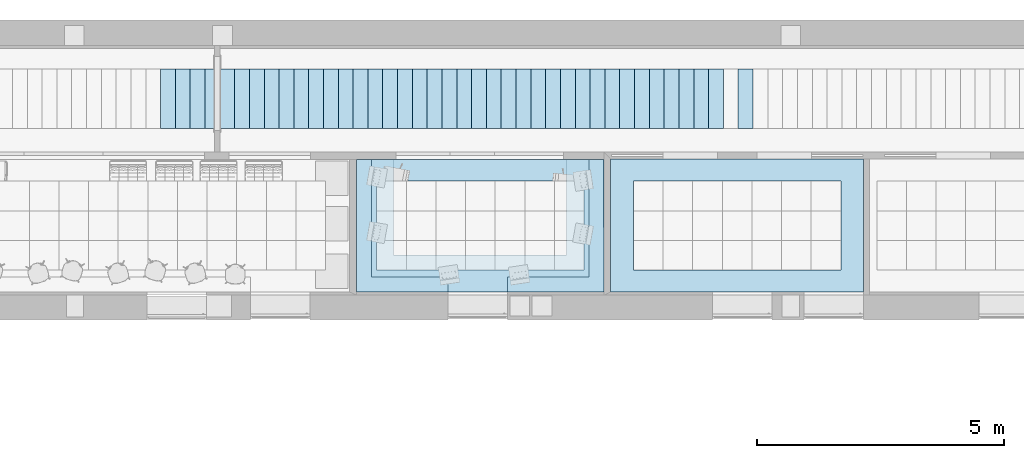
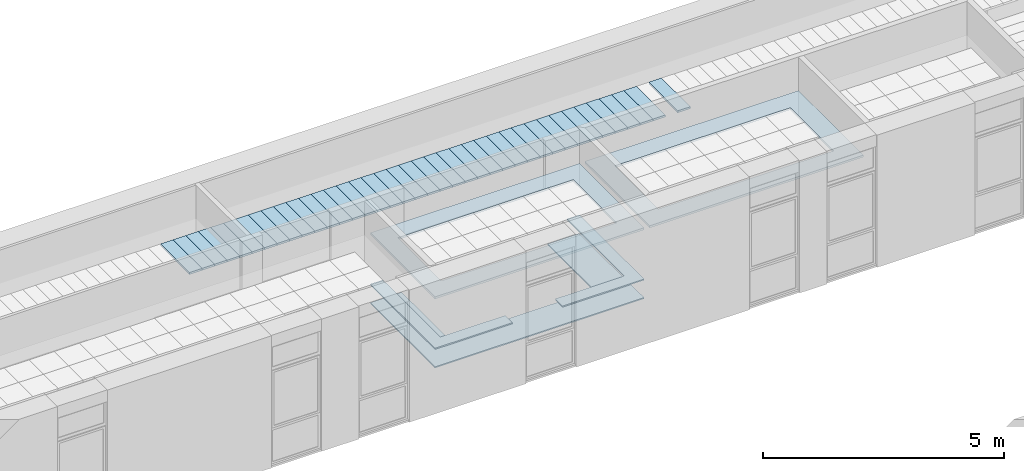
# One storey, part 10 of 68: 44 slabs.
"""IFC2X3 building model written with IfcOpenShell, lengths in millimetres."""

from ifc_helpers import new_model, entity, si_unit, converted_unit, derived_unit, money_unit, direction, frame, origin_with_axes, place, context, subcontext, project, spatial, polyline, outline, extrude, material, layer, layer_set, layer_usage, type_object, element, save


model = new_model("IFC2X3")

# Units and contexts
model_context = context("Model", 3, precision=0.01, world=origin_with_axes(), true_north=direction((0.0, 1.0)))
body_context = subcontext(model_context, "Body", "Model", "MODEL_VIEW")
ifc_project = project(units=[si_unit("LENGTHUNIT", "METRE", prefix="MILLI"), si_unit("AREAUNIT", "SQUARE_METRE"), si_unit("VOLUMEUNIT", "CUBIC_METRE"), converted_unit("PLANEANGLEUNIT", "DEGREE", entity("IfcPlaneAngleMeasure", 0.0174532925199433), si_unit("PLANEANGLEUNIT", "RADIAN"), dimensions=[0, 0, 0, 0, 0, 0, 0]), money_unit("USD"), converted_unit("TIMEUNIT", "Year", entity("IfcTimeMeasure", 31557600.0), si_unit("TIMEUNIT", "SECOND"), dimensions=[0, 0, 1, 0, 0, 0, 0]), si_unit("MASSUNIT", "GRAM", prefix="KILO"), si_unit("THERMODYNAMICTEMPERATUREUNIT", "DEGREE_CELSIUS"), si_unit("LUMINOUSINTENSITYUNIT", "LUMEN"), si_unit("ENERGYUNIT", "JOULE", prefix="MEGA"), derived_unit("THERMALCONDUCTANCEUNIT", [(si_unit("POWERUNIT", "WATT"), 1), (si_unit("LENGTHUNIT", "METRE"), -1), (si_unit("THERMODYNAMICTEMPERATUREUNIT", "KELVIN"), -1)]), derived_unit("SPECIFICHEATCAPACITYUNIT", [(si_unit("ENERGYUNIT", "JOULE"), 1), (si_unit("MASSUNIT", "GRAM", prefix="KILO"), -1), (si_unit("THERMODYNAMICTEMPERATUREUNIT", "KELVIN"), -1)]), derived_unit("MASSDENSITYUNIT", [(si_unit("MASSUNIT", "GRAM", prefix="KILO"), 1), (si_unit("VOLUMEUNIT", "CUBIC_METRE"), -1)])], contexts=[model_context])

# Site, building, storey
site_placement = place(None, origin_with_axes())
site = spatial("IfcSite", under=ifc_project, at=site_placement, Name="Sitio", CompositionType="ELEMENT")
building_placement = place(site_placement, origin_with_axes())
building = spatial("IfcBuilding", under=site, at=building_placement, Name="Construcción", CompositionType="ELEMENT")
storey_placement = place(building_placement, origin_with_axes())
storey = spatial("IfcBuildingStorey", under=building, at=storey_placement, Name="PLANTA 1ª", CompositionType="ELEMENT", Elevation=0.0)

# Slabs
ifc_material_1 = material(Name="ARQ_ME126_CelRas_Placa_Metallica")
ifc_layer_1 = layer(ifc_material_1, 50.0, ventilated="UNKNOWN")
ifc_layer_set_1 = layer_set([ifc_layer_1], Name="ARQ_ME126_CelRas_Placa_Metallica 50")
ifc_layer_usage_1 = layer_usage(ifc_layer_set_1, "AXIS3", "NEGATIVE", 50.0)
slab_type_1 = type_object("IfcSlabType", Name="ARQ_ME126_CelRas_Placa_Metallica 50", PredefinedType="NOTDEFINED")
slab_1_placement = place(storey_placement, frame((-19961.6828658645, 3382.153621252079, 2500.0), z_axis=(0.0, 0.0, 1.0), x_axis=(1.0, 0.0, 0.0)))
element("IfcSlab", 1, at=slab_1_placement, inside=storey, type_object=slab_type_1, material=ifc_layer_usage_1, Name="SLA - 026", PredefinedType="NOTDEFINED", context=body_context, shape_type="SweptSolid", body=[
    extrude(outline(polyline([(0.0, 0.0), (0.0, -1199.999999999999), (300.0000000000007, -1199.999999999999), (300.0000000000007, 0.0), (0.0, 0.0)])), frame((0.0, 0.0, -50.0), z_axis=(0.0, 0.0, 1.0), x_axis=(1.0, 0.0, 0.0)), (0.0, 0.0, 1.0), 50.0),
])
ifc_layer_usage_2 = layer_usage(ifc_layer_set_1, "AXIS3", "NEGATIVE", 50.0)
slab_2_placement = place(storey_placement, frame((-19361.6828658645, 3382.153621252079, 2500.0), z_axis=(0.0, 0.0, 1.0), x_axis=(1.0, 0.0, 0.0)))
element("IfcSlab", 2, at=slab_2_placement, inside=storey, type_object=slab_type_1, material=ifc_layer_usage_2, Name="SLA - 026", PredefinedType="NOTDEFINED", context=body_context, shape_type="SweptSolid", body=[
    extrude(outline(polyline([(0.0, 0.0), (0.0, -1199.999999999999), (300.0000000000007, -1199.999999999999), (300.0000000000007, 0.0), (0.0, 0.0)])), frame((0.0, 0.0, -50.0), z_axis=(0.0, 0.0, 1.0), x_axis=(1.0, 0.0, 0.0)), (0.0, 0.0, 1.0), 50.0),
])
ifc_layer_usage_3 = layer_usage(ifc_layer_set_1, "AXIS3", "NEGATIVE", 50.0)
slab_3_placement = place(storey_placement, frame((-19661.6828658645, 3382.153621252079, 2500.0), z_axis=(0.0, 0.0, 1.0), x_axis=(1.0, 0.0, 0.0)))
element("IfcSlab", 3, at=slab_3_placement, inside=storey, type_object=slab_type_1, material=ifc_layer_usage_3, Name="SLA - 026", PredefinedType="NOTDEFINED", context=body_context, shape_type="SweptSolid", body=[
    extrude(outline(polyline([(0.0, 0.0), (0.0, -1199.999999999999), (300.0000000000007, -1199.999999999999), (300.0000000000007, 0.0), (0.0, 0.0)])), frame((0.0, 0.0, -50.0), z_axis=(0.0, 0.0, 1.0), x_axis=(1.0, 0.0, 0.0)), (0.0, 0.0, 1.0), 50.0),
])
ifc_layer_usage_4 = layer_usage(ifc_layer_set_1, "AXIS3", "NEGATIVE", 50.0)
slab_4_placement = place(storey_placement, frame((-19061.6828658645, 3382.153621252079, 2500.0), z_axis=(0.0, 0.0, 1.0), x_axis=(1.0, 0.0, 0.0)))
element("IfcSlab", 4, at=slab_4_placement, inside=storey, type_object=slab_type_1, material=ifc_layer_usage_4, Name="SLA - 026", PredefinedType="NOTDEFINED", context=body_context, shape_type="SweptSolid", body=[
    extrude(outline(polyline([(0.0, 0.0), (0.0, -1199.999999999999), (300.0000000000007, -1199.999999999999), (300.0000000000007, 0.0), (0.0, 0.0)])), frame((0.0, 0.0, -50.0), z_axis=(0.0, 0.0, 1.0), x_axis=(1.0, 0.0, 0.0)), (0.0, 0.0, 1.0), 50.0),
])
ifc_layer_usage_5 = layer_usage(ifc_layer_set_1, "AXIS3", "NEGATIVE", 50.0)
slab_5_placement = place(storey_placement, frame((-18461.6828658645, 3382.153621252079, 2500.0), z_axis=(0.0, 0.0, 1.0), x_axis=(1.0, 0.0, 0.0)))
element("IfcSlab", 5, at=slab_5_placement, inside=storey, type_object=slab_type_1, material=ifc_layer_usage_5, Name="SLA - 026", PredefinedType="NOTDEFINED", context=body_context, shape_type="SweptSolid", body=[
    extrude(outline(polyline([(0.0, 0.0), (0.0, -1199.999999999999), (300.0000000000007, -1199.999999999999), (300.0000000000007, 0.0), (0.0, 0.0)])), frame((0.0, 0.0, -50.0), z_axis=(0.0, 0.0, 1.0), x_axis=(1.0, 0.0, 0.0)), (0.0, 0.0, 1.0), 50.0),
])
ifc_layer_usage_6 = layer_usage(ifc_layer_set_1, "AXIS3", "NEGATIVE", 50.0)
slab_6_placement = place(storey_placement, frame((-18161.6828658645, 3382.153621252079, 2500.0), z_axis=(0.0, 0.0, 1.0), x_axis=(1.0, 0.0, 0.0)))
element("IfcSlab", 6, at=slab_6_placement, inside=storey, type_object=slab_type_1, material=ifc_layer_usage_6, Name="SLA - 026", PredefinedType="NOTDEFINED", context=body_context, shape_type="SweptSolid", body=[
    extrude(outline(polyline([(0.0, 0.0), (0.0, -1199.999999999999), (300.0000000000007, -1199.999999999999), (300.0000000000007, 0.0), (0.0, 0.0)])), frame((0.0, 0.0, -50.0), z_axis=(0.0, 0.0, 1.0), x_axis=(1.0, 0.0, 0.0)), (0.0, 0.0, 1.0), 50.0),
])
ifc_layer_usage_7 = layer_usage(ifc_layer_set_1, "AXIS3", "NEGATIVE", 50.0)
slab_7_placement = place(storey_placement, frame((-17861.6828658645, 3382.153621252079, 2500.0), z_axis=(0.0, 0.0, 1.0), x_axis=(1.0, 0.0, 0.0)))
element("IfcSlab", 7, at=slab_7_placement, inside=storey, type_object=slab_type_1, material=ifc_layer_usage_7, Name="SLA - 026", PredefinedType="NOTDEFINED", context=body_context, shape_type="SweptSolid", body=[
    extrude(outline(polyline([(0.0, 0.0), (0.0, -1199.999999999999), (300.0000000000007, -1199.999999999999), (300.0000000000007, 0.0), (0.0, 0.0)])), frame((0.0, 0.0, -50.0), z_axis=(0.0, 0.0, 1.0), x_axis=(1.0, 0.0, 0.0)), (0.0, 0.0, 1.0), 50.0),
])
ifc_layer_usage_8 = layer_usage(ifc_layer_set_1, "AXIS3", "NEGATIVE", 50.0)
slab_8_placement = place(storey_placement, frame((-17561.6828658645, 3382.153621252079, 2500.0), z_axis=(0.0, 0.0, 1.0), x_axis=(1.0, 0.0, 0.0)))
element("IfcSlab", 8, at=slab_8_placement, inside=storey, type_object=slab_type_1, material=ifc_layer_usage_8, Name="SLA - 026", PredefinedType="NOTDEFINED", context=body_context, shape_type="SweptSolid", body=[
    extrude(outline(polyline([(0.0, 0.0), (0.0, -1199.999999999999), (300.0000000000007, -1199.999999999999), (300.0000000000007, 0.0), (0.0, 0.0)])), frame((0.0, 0.0, -50.0), z_axis=(0.0, 0.0, 1.0), x_axis=(1.0, 0.0, 0.0)), (0.0, 0.0, 1.0), 50.0),
])
ifc_layer_usage_9 = layer_usage(ifc_layer_set_1, "AXIS3", "NEGATIVE", 50.0)
slab_9_placement = place(storey_placement, frame((-17261.6828658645, 3382.153621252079, 2500.0), z_axis=(0.0, 0.0, 1.0), x_axis=(1.0, 0.0, 0.0)))
element("IfcSlab", 9, at=slab_9_placement, inside=storey, type_object=slab_type_1, material=ifc_layer_usage_9, Name="SLA - 026", PredefinedType="NOTDEFINED", context=body_context, shape_type="SweptSolid", body=[
    extrude(outline(polyline([(0.0, 0.0), (0.0, -1199.999999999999), (300.0000000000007, -1199.999999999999), (300.0000000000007, 0.0), (0.0, 0.0)])), frame((0.0, 0.0, -50.0), z_axis=(0.0, 0.0, 1.0), x_axis=(1.0, 0.0, 0.0)), (0.0, 0.0, 1.0), 50.0),
])
ifc_layer_usage_10 = layer_usage(ifc_layer_set_1, "AXIS3", "NEGATIVE", 50.0)
slab_10_placement = place(storey_placement, frame((-16961.6828658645, 3382.153621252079, 2500.0), z_axis=(0.0, 0.0, 1.0), x_axis=(1.0, 0.0, 0.0)))
element("IfcSlab", 10, at=slab_10_placement, inside=storey, type_object=slab_type_1, material=ifc_layer_usage_10, Name="SLA - 026", PredefinedType="NOTDEFINED", context=body_context, shape_type="SweptSolid", body=[
    extrude(outline(polyline([(0.0, 0.0), (0.0, -1199.999999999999), (300.0000000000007, -1199.999999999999), (300.0000000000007, 0.0), (0.0, 0.0)])), frame((0.0, 0.0, -50.0), z_axis=(0.0, 0.0, 1.0), x_axis=(1.0, 0.0, 0.0)), (0.0, 0.0, 1.0), 50.0),
])
ifc_layer_usage_11 = layer_usage(ifc_layer_set_1, "AXIS3", "NEGATIVE", 50.0)
slab_11_placement = place(storey_placement, frame((-16661.6828658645, 3382.153621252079, 2500.0), z_axis=(0.0, 0.0, 1.0), x_axis=(1.0, 0.0, 0.0)))
element("IfcSlab", 11, at=slab_11_placement, inside=storey, type_object=slab_type_1, material=ifc_layer_usage_11, Name="SLA - 026", PredefinedType="NOTDEFINED", context=body_context, shape_type="SweptSolid", body=[
    extrude(outline(polyline([(0.0, 0.0), (0.0, -1199.999999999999), (300.0000000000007, -1199.999999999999), (300.0000000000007, 0.0), (0.0, 0.0)])), frame((0.0, 0.0, -50.0), z_axis=(0.0, 0.0, 1.0), x_axis=(1.0, 0.0, 0.0)), (0.0, 0.0, 1.0), 50.0),
])
ifc_layer_usage_12 = layer_usage(ifc_layer_set_1, "AXIS3", "NEGATIVE", 50.0)
slab_12_placement = place(storey_placement, frame((-18761.6828658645, 3382.153621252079, 2500.0), z_axis=(0.0, 0.0, 1.0), x_axis=(1.0, 0.0, 0.0)))
element("IfcSlab", 12, at=slab_12_placement, inside=storey, type_object=slab_type_1, material=ifc_layer_usage_12, Name="SLA - 026", PredefinedType="NOTDEFINED", context=body_context, shape_type="SweptSolid", body=[
    extrude(outline(polyline([(0.0, 0.0), (0.0, -1199.999999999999), (300.0000000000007, -1199.999999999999), (300.0000000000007, 0.0), (0.0, 0.0)])), frame((0.0, 0.0, -50.0), z_axis=(0.0, 0.0, 1.0), x_axis=(1.0, 0.0, 0.0)), (0.0, 0.0, 1.0), 50.0),
])
ifc_layer_usage_13 = layer_usage(ifc_layer_set_1, "AXIS3", "NEGATIVE", 50.0)
slab_13_placement = place(storey_placement, frame((-16361.68286586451, 3382.153621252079, 2500.0), z_axis=(0.0, 0.0, 1.0), x_axis=(1.0, 0.0, 0.0)))
element("IfcSlab", 13, at=slab_13_placement, inside=storey, type_object=slab_type_1, material=ifc_layer_usage_13, Name="SLA - 026", PredefinedType="NOTDEFINED", context=body_context, shape_type="SweptSolid", body=[
    extrude(outline(polyline([(0.0, 0.0), (0.0, -1199.999999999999), (300.0000000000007, -1199.999999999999), (300.0000000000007, 0.0), (0.0, 0.0)])), frame((0.0, 0.0, -50.0), z_axis=(0.0, 0.0, 1.0), x_axis=(1.0, 0.0, 0.0)), (0.0, 0.0, 1.0), 50.0),
])
ifc_layer_usage_14 = layer_usage(ifc_layer_set_1, "AXIS3", "NEGATIVE", 50.0)
slab_14_placement = place(storey_placement, frame((-15761.6828658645, 3382.153621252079, 2500.0), z_axis=(0.0, 0.0, 1.0), x_axis=(1.0, 0.0, 0.0)))
element("IfcSlab", 14, at=slab_14_placement, inside=storey, type_object=slab_type_1, material=ifc_layer_usage_14, Name="SLA - 026", PredefinedType="NOTDEFINED", context=body_context, shape_type="SweptSolid", body=[
    extrude(outline(polyline([(0.0, 0.0), (0.0, -1199.999999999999), (300.0000000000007, -1199.999999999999), (300.0000000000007, 0.0), (0.0, 0.0)])), frame((0.0, 0.0, -50.0), z_axis=(0.0, 0.0, 1.0), x_axis=(1.0, 0.0, 0.0)), (0.0, 0.0, 1.0), 50.0),
])
ifc_layer_usage_15 = layer_usage(ifc_layer_set_1, "AXIS3", "NEGATIVE", 50.0)
slab_15_placement = place(storey_placement, frame((-15461.6828658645, 3382.153621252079, 2500.0), z_axis=(0.0, 0.0, 1.0), x_axis=(1.0, 0.0, 0.0)))
element("IfcSlab", 15, at=slab_15_placement, inside=storey, type_object=slab_type_1, material=ifc_layer_usage_15, Name="SLA - 026", PredefinedType="NOTDEFINED", context=body_context, shape_type="SweptSolid", body=[
    extrude(outline(polyline([(0.0, 0.0), (0.0, -1199.999999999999), (300.0000000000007, -1199.999999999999), (300.0000000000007, 0.0), (0.0, 0.0)])), frame((0.0, 0.0, -50.0), z_axis=(0.0, 0.0, 1.0), x_axis=(1.0, 0.0, 0.0)), (0.0, 0.0, 1.0), 50.0),
])
ifc_layer_usage_16 = layer_usage(ifc_layer_set_1, "AXIS3", "NEGATIVE", 50.0)
slab_16_placement = place(storey_placement, frame((-15161.6828658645, 3382.153621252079, 2500.0), z_axis=(0.0, 0.0, 1.0), x_axis=(1.0, 0.0, 0.0)))
element("IfcSlab", 16, at=slab_16_placement, inside=storey, type_object=slab_type_1, material=ifc_layer_usage_16, Name="SLA - 026", PredefinedType="NOTDEFINED", context=body_context, shape_type="SweptSolid", body=[
    extrude(outline(polyline([(0.0, 0.0), (0.0, -1199.999999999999), (300.0000000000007, -1199.999999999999), (300.0000000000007, 0.0), (0.0, 0.0)])), frame((0.0, 0.0, -50.0), z_axis=(0.0, 0.0, 1.0), x_axis=(1.0, 0.0, 0.0)), (0.0, 0.0, 1.0), 50.0),
])
ifc_layer_usage_17 = layer_usage(ifc_layer_set_1, "AXIS3", "NEGATIVE", 50.0)
slab_17_placement = place(storey_placement, frame((-16061.6828658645, 3382.153621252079, 2500.0), z_axis=(0.0, 0.0, 1.0), x_axis=(1.0, 0.0, 0.0)))
element("IfcSlab", 17, at=slab_17_placement, inside=storey, type_object=slab_type_1, material=ifc_layer_usage_17, Name="SLA - 026", PredefinedType="NOTDEFINED", context=body_context, shape_type="SweptSolid", body=[
    extrude(outline(polyline([(0.0, 0.0), (0.0, -1199.999999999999), (300.0000000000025, -1199.999999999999), (300.0000000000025, 0.0), (0.0, 0.0)])), frame((0.0, 0.0, -50.0), z_axis=(0.0, 0.0, 1.0), x_axis=(1.0, 0.0, 0.0)), (0.0, 0.0, 1.0), 50.0),
])
ifc_layer_usage_18 = layer_usage(ifc_layer_set_1, "AXIS3", "NEGATIVE", 50.0)
slab_18_placement = place(storey_placement, frame((-14861.6828658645, 3382.153621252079, 2500.0), z_axis=(0.0, 0.0, 1.0), x_axis=(1.0, 0.0, 0.0)))
element("IfcSlab", 18, at=slab_18_placement, inside=storey, type_object=slab_type_1, material=ifc_layer_usage_18, Name="SLA - 026", PredefinedType="NOTDEFINED", context=body_context, shape_type="SweptSolid", body=[
    extrude(outline(polyline([(0.0, 0.0), (0.0, -1199.999999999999), (300.0000000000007, -1199.999999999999), (300.0000000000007, 0.0), (0.0, 0.0)])), frame((0.0, 0.0, -50.0), z_axis=(0.0, 0.0, 1.0), x_axis=(1.0, 0.0, 0.0)), (0.0, 0.0, 1.0), 50.0),
])
ifc_layer_usage_19 = layer_usage(ifc_layer_set_1, "AXIS3", "NEGATIVE", 50.0)
slab_19_placement = place(storey_placement, frame((-14561.6828658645, 3382.153621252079, 2500.0), z_axis=(0.0, 0.0, 1.0), x_axis=(1.0, 0.0, 0.0)))
element("IfcSlab", 19, at=slab_19_placement, inside=storey, type_object=slab_type_1, material=ifc_layer_usage_19, Name="SLA - 026", PredefinedType="NOTDEFINED", context=body_context, shape_type="SweptSolid", body=[
    extrude(outline(polyline([(0.0, 0.0), (0.0, -1199.999999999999), (300.0000000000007, -1199.999999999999), (300.0000000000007, 0.0), (0.0, 0.0)])), frame((0.0, 0.0, -50.0), z_axis=(0.0, 0.0, 1.0), x_axis=(1.0, 0.0, 0.0)), (0.0, 0.0, 1.0), 50.0),
])
ifc_layer_usage_20 = layer_usage(ifc_layer_set_1, "AXIS3", "NEGATIVE", 50.0)
slab_20_placement = place(storey_placement, frame((-14261.6828658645, 3382.153621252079, 2500.0), z_axis=(0.0, 0.0, 1.0), x_axis=(1.0, 0.0, 0.0)))
element("IfcSlab", 20, at=slab_20_placement, inside=storey, type_object=slab_type_1, material=ifc_layer_usage_20, Name="SLA - 026", PredefinedType="NOTDEFINED", context=body_context, shape_type="SweptSolid", body=[
    extrude(outline(polyline([(0.0, 0.0), (0.0, -1199.999999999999), (300.0000000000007, -1199.999999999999), (300.0000000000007, 0.0), (0.0, 0.0)])), frame((0.0, 0.0, -50.0), z_axis=(0.0, 0.0, 1.0), x_axis=(1.0, 0.0, 0.0)), (0.0, 0.0, 1.0), 50.0),
])
ifc_layer_usage_21 = layer_usage(ifc_layer_set_1, "AXIS3", "NEGATIVE", 50.0)
slab_21_placement = place(storey_placement, frame((-13661.6828658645, 3382.153621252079, 2500.0), z_axis=(0.0, 0.0, 1.0), x_axis=(1.0, 0.0, 0.0)))
element("IfcSlab", 21, at=slab_21_placement, inside=storey, type_object=slab_type_1, material=ifc_layer_usage_21, Name="SLA - 026", PredefinedType="NOTDEFINED", context=body_context, shape_type="SweptSolid", body=[
    extrude(outline(polyline([(0.0, 0.0), (0.0, -1199.999999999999), (300.0000000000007, -1199.999999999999), (300.0000000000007, 0.0), (0.0, 0.0)])), frame((0.0, 0.0, -50.0), z_axis=(0.0, 0.0, 1.0), x_axis=(1.0, 0.0, 0.0)), (0.0, 0.0, 1.0), 50.0),
])
ifc_layer_usage_22 = layer_usage(ifc_layer_set_1, "AXIS3", "NEGATIVE", 50.0)
slab_22_placement = place(storey_placement, frame((-13061.6828658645, 3382.153621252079, 2500.0), z_axis=(0.0, 0.0, 1.0), x_axis=(1.0, 0.0, 0.0)))
element("IfcSlab", 22, at=slab_22_placement, inside=storey, type_object=slab_type_1, material=ifc_layer_usage_22, Name="SLA - 026", PredefinedType="NOTDEFINED", context=body_context, shape_type="SweptSolid", body=[
    extrude(outline(polyline([(0.0, 0.0), (0.0, -1199.999999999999), (300.0000000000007, -1199.999999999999), (300.0000000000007, 0.0), (0.0, 0.0)])), frame((0.0, 0.0, -50.0), z_axis=(0.0, 0.0, 1.0), x_axis=(1.0, 0.0, 0.0)), (0.0, 0.0, 1.0), 50.0),
])
ifc_layer_usage_23 = layer_usage(ifc_layer_set_1, "AXIS3", "NEGATIVE", 50.0)
slab_23_placement = place(storey_placement, frame((-13361.6828658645, 3382.153621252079, 2500.0), z_axis=(0.0, 0.0, 1.0), x_axis=(1.0, 0.0, 0.0)))
element("IfcSlab", 23, at=slab_23_placement, inside=storey, type_object=slab_type_1, material=ifc_layer_usage_23, Name="SLA - 026", PredefinedType="NOTDEFINED", context=body_context, shape_type="SweptSolid", body=[
    extrude(outline(polyline([(0.0, 0.0), (0.0, -1199.999999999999), (300.0000000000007, -1199.999999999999), (300.0000000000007, 0.0), (0.0, 0.0)])), frame((0.0, 0.0, -50.0), z_axis=(0.0, 0.0, 1.0), x_axis=(1.0, 0.0, 0.0)), (0.0, 0.0, 1.0), 50.0),
])
ifc_layer_usage_24 = layer_usage(ifc_layer_set_1, "AXIS3", "NEGATIVE", 50.0)
slab_24_placement = place(storey_placement, frame((-12761.6828658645, 3382.153621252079, 2500.0), z_axis=(0.0, 0.0, 1.0), x_axis=(1.0, 0.0, 0.0)))
element("IfcSlab", 24, at=slab_24_placement, inside=storey, type_object=slab_type_1, material=ifc_layer_usage_24, Name="SLA - 026", PredefinedType="NOTDEFINED", context=body_context, shape_type="SweptSolid", body=[
    extrude(outline(polyline([(0.0, 0.0), (0.0, -1199.999999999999), (300.0000000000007, -1199.999999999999), (300.0000000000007, 0.0), (0.0, 0.0)])), frame((0.0, 0.0, -50.0), z_axis=(0.0, 0.0, 1.0), x_axis=(1.0, 0.0, 0.0)), (0.0, 0.0, 1.0), 50.0),
])
ifc_layer_usage_25 = layer_usage(ifc_layer_set_1, "AXIS3", "NEGATIVE", 50.0)
slab_25_placement = place(storey_placement, frame((-12461.6828658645, 3382.153621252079, 2500.0), z_axis=(0.0, 0.0, 1.0), x_axis=(1.0, 0.0, 0.0)))
element("IfcSlab", 25, at=slab_25_placement, inside=storey, type_object=slab_type_1, material=ifc_layer_usage_25, Name="SLA - 026", PredefinedType="NOTDEFINED", context=body_context, shape_type="SweptSolid", body=[
    extrude(outline(polyline([(0.0, 0.0), (0.0, -1199.999999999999), (300.0000000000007, -1199.999999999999), (300.0000000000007, 0.0), (0.0, 0.0)])), frame((0.0, 0.0, -50.0), z_axis=(0.0, 0.0, 1.0), x_axis=(1.0, 0.0, 0.0)), (0.0, 0.0, 1.0), 50.0),
])
ifc_layer_usage_26 = layer_usage(ifc_layer_set_1, "AXIS3", "NEGATIVE", 50.0)
slab_26_placement = place(storey_placement, frame((-12161.6828658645, 3382.153621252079, 2500.0), z_axis=(0.0, 0.0, 1.0), x_axis=(1.0, 0.0, 0.0)))
element("IfcSlab", 26, at=slab_26_placement, inside=storey, type_object=slab_type_1, material=ifc_layer_usage_26, Name="SLA - 026", PredefinedType="NOTDEFINED", context=body_context, shape_type="SweptSolid", body=[
    extrude(outline(polyline([(0.0, 0.0), (0.0, -1199.999999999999), (300.0000000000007, -1199.999999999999), (300.0000000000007, 0.0), (0.0, 0.0)])), frame((0.0, 0.0, -50.0), z_axis=(0.0, 0.0, 1.0), x_axis=(1.0, 0.0, 0.0)), (0.0, 0.0, 1.0), 50.0),
])
ifc_layer_usage_27 = layer_usage(ifc_layer_set_1, "AXIS3", "NEGATIVE", 50.0)
slab_27_placement = place(storey_placement, frame((-11861.6828658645, 3382.153621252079, 2500.0), z_axis=(0.0, 0.0, 1.0), x_axis=(1.0, 0.0, 0.0)))
element("IfcSlab", 27, at=slab_27_placement, inside=storey, type_object=slab_type_1, material=ifc_layer_usage_27, Name="SLA - 026", PredefinedType="NOTDEFINED", context=body_context, shape_type="SweptSolid", body=[
    extrude(outline(polyline([(0.0, 0.0), (0.0, -1199.999999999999), (300.0000000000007, -1199.999999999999), (300.0000000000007, 0.0), (0.0, 0.0)])), frame((0.0, 0.0, -50.0), z_axis=(0.0, 0.0, 1.0), x_axis=(1.0, 0.0, 0.0)), (0.0, 0.0, 1.0), 50.0),
])
ifc_layer_usage_28 = layer_usage(ifc_layer_set_1, "AXIS3", "NEGATIVE", 50.0)
slab_28_placement = place(storey_placement, frame((-13961.6828658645, 3382.153621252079, 2500.0), z_axis=(0.0, 0.0, 1.0), x_axis=(1.0, 0.0, 0.0)))
element("IfcSlab", 28, at=slab_28_placement, inside=storey, type_object=slab_type_1, material=ifc_layer_usage_28, Name="SLA - 026", PredefinedType="NOTDEFINED", context=body_context, shape_type="SweptSolid", body=[
    extrude(outline(polyline([(0.0, 0.0), (0.0, -1199.999999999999), (300.0000000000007, -1199.999999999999), (300.0000000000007, 0.0), (0.0, 0.0)])), frame((0.0, 0.0, -50.0), z_axis=(0.0, 0.0, 1.0), x_axis=(1.0, 0.0, 0.0)), (0.0, 0.0, 1.0), 50.0),
])
ifc_layer_usage_29 = layer_usage(ifc_layer_set_1, "AXIS3", "NEGATIVE", 50.0)
slab_29_placement = place(storey_placement, frame((-11261.6828658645, 3382.153621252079, 2500.0), z_axis=(0.0, 0.0, 1.0), x_axis=(1.0, 0.0, 0.0)))
element("IfcSlab", 29, at=slab_29_placement, inside=storey, type_object=slab_type_1, material=ifc_layer_usage_29, Name="SLA - 026", PredefinedType="NOTDEFINED", context=body_context, shape_type="SweptSolid", body=[
    extrude(outline(polyline([(0.0, 0.0), (0.0, -1199.999999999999), (300.0000000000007, -1199.999999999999), (300.0000000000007, 0.0), (0.0, 0.0)])), frame((0.0, 0.0, -50.0), z_axis=(0.0, 0.0, 1.0), x_axis=(1.0, 0.0, 0.0)), (0.0, 0.0, 1.0), 50.0),
])
ifc_layer_usage_30 = layer_usage(ifc_layer_set_1, "AXIS3", "NEGATIVE", 50.0)
slab_30_placement = place(storey_placement, frame((-10961.6828658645, 3382.153621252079, 2500.0), z_axis=(0.0, 0.0, 1.0), x_axis=(1.0, 0.0, 0.0)))
element("IfcSlab", 30, at=slab_30_placement, inside=storey, type_object=slab_type_1, material=ifc_layer_usage_30, Name="SLA - 026", PredefinedType="NOTDEFINED", context=body_context, shape_type="SweptSolid", body=[
    extrude(outline(polyline([(0.0, 0.0), (0.0, -1199.999999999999), (300.0000000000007, -1199.999999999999), (300.0000000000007, 0.0), (0.0, 0.0)])), frame((0.0, 0.0, -50.0), z_axis=(0.0, 0.0, 1.0), x_axis=(1.0, 0.0, 0.0)), (0.0, 0.0, 1.0), 50.0),
])
ifc_layer_usage_31 = layer_usage(ifc_layer_set_1, "AXIS3", "NEGATIVE", 50.0)
slab_31_placement = place(storey_placement, frame((-10661.6828658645, 3382.153621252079, 2500.0), z_axis=(0.0, 0.0, 1.0), x_axis=(1.0, 0.0, 0.0)))
element("IfcSlab", 31, at=slab_31_placement, inside=storey, type_object=slab_type_1, material=ifc_layer_usage_31, Name="SLA - 026", PredefinedType="NOTDEFINED", context=body_context, shape_type="SweptSolid", body=[
    extrude(outline(polyline([(0.0, 0.0), (0.0, -1199.999999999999), (300.0000000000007, -1199.999999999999), (300.0000000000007, 0.0), (0.0, 0.0)])), frame((0.0, 0.0, -50.0), z_axis=(0.0, 0.0, 1.0), x_axis=(1.0, 0.0, 0.0)), (0.0, 0.0, 1.0), 50.0),
])
ifc_layer_usage_32 = layer_usage(ifc_layer_set_1, "AXIS3", "NEGATIVE", 50.0)
slab_32_placement = place(storey_placement, frame((-10361.6828658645, 3382.153621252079, 2500.0), z_axis=(0.0, 0.0, 1.0), x_axis=(1.0, 0.0, 0.0)))
element("IfcSlab", 32, at=slab_32_placement, inside=storey, type_object=slab_type_1, material=ifc_layer_usage_32, Name="SLA - 026", PredefinedType="NOTDEFINED", context=body_context, shape_type="SweptSolid", body=[
    extrude(outline(polyline([(0.0, 0.0), (0.0, -1199.999999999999), (300.0000000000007, -1199.999999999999), (300.0000000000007, 0.0), (0.0, 0.0)])), frame((0.0, 0.0, -50.0), z_axis=(0.0, 0.0, 1.0), x_axis=(1.0, 0.0, 0.0)), (0.0, 0.0, 1.0), 50.0),
])
ifc_layer_usage_33 = layer_usage(ifc_layer_set_1, "AXIS3", "NEGATIVE", 50.0)
slab_33_placement = place(storey_placement, frame((-10061.6828658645, 3382.153621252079, 2500.0), z_axis=(0.0, 0.0, 1.0), x_axis=(1.0, 0.0, 0.0)))
element("IfcSlab", 33, at=slab_33_placement, inside=storey, type_object=slab_type_1, material=ifc_layer_usage_33, Name="SLA - 026", PredefinedType="NOTDEFINED", context=body_context, shape_type="SweptSolid", body=[
    extrude(outline(polyline([(0.0, 0.0), (0.0, -1199.999999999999), (300.0000000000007, -1199.999999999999), (300.0000000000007, 0.0), (0.0, 0.0)])), frame((0.0, 0.0, -50.0), z_axis=(0.0, 0.0, 1.0), x_axis=(1.0, 0.0, 0.0)), (0.0, 0.0, 1.0), 50.0),
])
ifc_layer_usage_34 = layer_usage(ifc_layer_set_1, "AXIS3", "NEGATIVE", 50.0)
slab_34_placement = place(storey_placement, frame((-9761.682865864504, 3382.153621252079, 2500.0), z_axis=(0.0, 0.0, 1.0), x_axis=(1.0, 0.0, 0.0)))
element("IfcSlab", 34, at=slab_34_placement, inside=storey, type_object=slab_type_1, material=ifc_layer_usage_34, Name="SLA - 026", PredefinedType="NOTDEFINED", context=body_context, shape_type="SweptSolid", body=[
    extrude(outline(polyline([(0.0, 0.0), (0.0, -1199.999999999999), (300.0000000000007, -1199.999999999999), (300.0000000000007, 0.0), (0.0, 0.0)])), frame((0.0, 0.0, -50.0), z_axis=(0.0, 0.0, 1.0), x_axis=(1.0, 0.0, 0.0)), (0.0, 0.0, 1.0), 50.0),
])
ifc_layer_usage_35 = layer_usage(ifc_layer_set_1, "AXIS3", "NEGATIVE", 50.0)
slab_35_placement = place(storey_placement, frame((-9461.682865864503, 3382.153621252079, 2500.0), z_axis=(0.0, 0.0, 1.0), x_axis=(1.0, 0.0, 0.0)))
element("IfcSlab", 35, at=slab_35_placement, inside=storey, type_object=slab_type_1, material=ifc_layer_usage_35, Name="SLA - 026", PredefinedType="NOTDEFINED", context=body_context, shape_type="SweptSolid", body=[
    extrude(outline(polyline([(0.0, 0.0), (0.0, -1199.999999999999), (300.0000000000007, -1199.999999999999), (300.0000000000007, 0.0), (0.0, 0.0)])), frame((0.0, 0.0, -50.0), z_axis=(0.0, 0.0, 1.0), x_axis=(1.0, 0.0, 0.0)), (0.0, 0.0, 1.0), 50.0),
])
ifc_layer_usage_36 = layer_usage(ifc_layer_set_1, "AXIS3", "NEGATIVE", 50.0)
slab_36_placement = place(storey_placement, frame((-11561.6828658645, 3382.153621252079, 2500.0), z_axis=(0.0, 0.0, 1.0), x_axis=(1.0, 0.0, 0.0)))
element("IfcSlab", 36, at=slab_36_placement, inside=storey, type_object=slab_type_1, material=ifc_layer_usage_36, Name="SLA - 026", PredefinedType="NOTDEFINED", context=body_context, shape_type="SweptSolid", body=[
    extrude(outline(polyline([(0.0, 0.0), (0.0, -1199.999999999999), (300.0000000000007, -1199.999999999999), (300.0000000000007, 0.0), (0.0, 0.0)])), frame((0.0, 0.0, -50.0), z_axis=(0.0, 0.0, 1.0), x_axis=(1.0, 0.0, 0.0)), (0.0, 0.0, 1.0), 50.0),
])
ifc_layer_usage_37 = layer_usage(ifc_layer_set_1, "AXIS3", "NEGATIVE", 50.0)
slab_37_placement = place(storey_placement, frame((-9161.682865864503, 3382.153621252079, 2500.0), z_axis=(0.0, 0.0, 1.0), x_axis=(1.0, 0.0, 0.0)))
element("IfcSlab", 37, at=slab_37_placement, inside=storey, type_object=slab_type_1, material=ifc_layer_usage_37, Name="SLA - 026", PredefinedType="NOTDEFINED", context=body_context, shape_type="SweptSolid", body=[
    extrude(outline(polyline([(0.0, 0.0), (0.0, -1199.999999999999), (300.0000000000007, -1199.999999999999), (300.0000000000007, 0.0), (0.0, 0.0)])), frame((0.0, 0.0, -50.0), z_axis=(0.0, 0.0, 1.0), x_axis=(1.0, 0.0, 0.0)), (0.0, 0.0, 1.0), 50.0),
])
ifc_layer_usage_38 = layer_usage(ifc_layer_set_1, "AXIS3", "NEGATIVE", 50.0)
slab_38_placement = place(storey_placement, frame((-8861.682865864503, 3382.153621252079, 2500.0), z_axis=(0.0, 0.0, 1.0), x_axis=(1.0, 0.0, 0.0)))
element("IfcSlab", 38, at=slab_38_placement, inside=storey, type_object=slab_type_1, material=ifc_layer_usage_38, Name="SLA - 026", PredefinedType="NOTDEFINED", context=body_context, shape_type="SweptSolid", body=[
    extrude(outline(polyline([(0.0, 0.0), (0.0, -1199.999999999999), (300.0000000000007, -1199.999999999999), (300.0000000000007, 0.0), (0.0, 0.0)])), frame((0.0, 0.0, -50.0), z_axis=(0.0, 0.0, 1.0), x_axis=(1.0, 0.0, 0.0)), (0.0, 0.0, 1.0), 50.0),
])
ifc_layer_usage_39 = layer_usage(ifc_layer_set_1, "AXIS3", "NEGATIVE", 50.0)
slab_39_placement = place(storey_placement, frame((-8261.682865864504, 3382.153621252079, 2500.0), z_axis=(0.0, 0.0, 1.0), x_axis=(1.0, 0.0, 0.0)))
element("IfcSlab", 39, at=slab_39_placement, inside=storey, type_object=slab_type_1, material=ifc_layer_usage_39, Name="SLA - 026", PredefinedType="NOTDEFINED", context=body_context, shape_type="SweptSolid", body=[
    extrude(outline(polyline([(0.0, 0.0), (0.0, -1199.999999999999), (300.0000000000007, -1199.999999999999), (300.0000000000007, 0.0), (0.0, 0.0)])), frame((0.0, 0.0, -50.0), z_axis=(0.0, 0.0, 1.0), x_axis=(1.0, 0.0, 0.0)), (0.0, 0.0, 1.0), 50.0),
])
ifc_material_2 = material(Name="ARQ_FU091_HPL")
ifc_layer_2 = layer(ifc_material_2, 30.0, ventilated="UNKNOWN")
ifc_layer_set_2 = layer_set([ifc_layer_2], Name="ARQ_FU091_HPL 30")
ifc_layer_usage_40 = layer_usage(ifc_layer_set_2, "AXIS3", "NEGATIVE", 30.0)
slab_type_2 = type_object("IfcSlabType", Name="ARQ_FU091_HPL 30", PredefinedType="NOTDEFINED")
slab_40_placement = place(storey_placement, frame((-10979.8481802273, -1128.975823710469, 1200.0), z_axis=(0.0, 0.0, 1.0), x_axis=(1.0, 0.0, 0.0)))
element("IfcSlab", 40, at=slab_40_placement, inside=storey, type_object=slab_type_2, material=ifc_layer_usage_40, Name="SLA - 029", PredefinedType="NOTDEFINED", context=body_context, shape_type="SweptSolid", body=[
    extrude(outline(polyline([(0.0, 0.0), (0.0, 2683.828879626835), (-300.000000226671, 2683.828879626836), (-300.0000002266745, 300.0000000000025), (-1956.083175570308, 300.0000000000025), (-1956.083175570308, 0.0), (0.0, 0.0)])), frame((0.0, 0.0, -30.0), z_axis=(0.0, 0.0, 1.0), x_axis=(1.0, 0.0, 0.0)), (0.0, 0.0, 1.0), 30.0),
])
ifc_material_3 = material(Name="ARQ_GN003_Generic tancaments interiors")
ifc_layer_3 = layer(ifc_material_3, 30.0, ventilated="UNKNOWN")
ifc_layer_set_3 = layer_set([ifc_layer_3], Name="ARQ_GN003_Generic tancaments interiors 30")
ifc_layer_usage_41 = layer_usage(ifc_layer_set_3, "AXIS3", "NEGATIVE", 30.0)
slab_type_3 = type_object("IfcSlabType", Name="ARQ_GN003_Generic tancaments interiors 30", PredefinedType="NOTDEFINED")
slab_41_placement = place(storey_placement, frame((-15990.43135579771, 1554.853055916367, 730.0), z_axis=(0.0, 0.0, 1.0), x_axis=(1.0, 0.0, 0.0)))
element("IfcSlab", 41, at=slab_41_placement, inside=storey, type_object=slab_type_3, material=ifc_layer_usage_41, Name="SLA - 028", PredefinedType="NOTDEFINED", context=body_context, shape_type="SweptSolid", body=[
    extrude(outline(polyline([(0.0, 0.0), (0.0, -2683.828879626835), (5010.583175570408, -2683.828879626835), (4998.913630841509, 0.0), (4248.583175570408, 0.0), (4248.583175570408, -1933.828879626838), (750.0000000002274, -1933.828879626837), (750.0000000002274, 0.0), (0.0, 0.0)])), frame((0.0, 0.0, -30.0), z_axis=(0.0, 0.0, 1.0), x_axis=(1.0, 0.0, 0.0)), (0.0, 0.0, 1.0), 30.0),
])
ifc_layer_usage_42 = layer_usage(ifc_layer_set_3, "AXIS3", "NEGATIVE", 30.0)
slab_42_placement = place(storey_placement, frame((-15990.43135579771, -1128.975823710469, 1200.0), z_axis=(0.0, 0.0, 1.0), x_axis=(1.0, 0.0, 0.0)))
element("IfcSlab", 42, at=slab_42_placement, inside=storey, type_object=slab_type_3, material=ifc_layer_usage_42, Name="SLA - 029", PredefinedType="NOTDEFINED", context=body_context, shape_type="SweptSolid", body=[
    extrude(outline(polyline([(0.0, 0.0), (1854.500000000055, 0.0), (1854.500000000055, 300.0000002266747), (300.0000000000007, 300.0000002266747), (300.0000000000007, 2683.828879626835), (0.0, 2683.828879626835), (0.0, 0.0)])), frame((0.0, 0.0, -30.0), z_axis=(0.0, 0.0, 1.0), x_axis=(1.0, 0.0, 0.0)), (0.0, 0.0, 1.0), 30.0),
])
ifc_material_4 = material(Name="ARQ_CG064_CelRas_Guix_Continu")
ifc_layer_4 = layer(ifc_material_4, 53.0, ventilated="UNKNOWN")
ifc_layer_set_4 = layer_set([ifc_layer_4], Name="ARQ_CG064_CelRas_Guix_Continu 53")
ifc_layer_usage_43 = layer_usage(ifc_layer_set_4, "AXIS3", "NEGATIVE", 53.0)
slab_type_4 = type_object("IfcSlabType", Name="ARQ_CG064_CelRas_Guix_Continu 53", PredefinedType="NOTDEFINED")
slab_43_placement = place(storey_placement, frame((-10979.8481802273, 1554.853055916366, 2500.0), z_axis=(0.0, 0.0, 1.0), x_axis=(1.0, 0.0, 0.0)))
element("IfcSlab", 43, at=slab_43_placement, inside=storey, type_object=slab_type_4, material=ifc_layer_usage_43, Name="SLA - 013", PredefinedType="NOTDEFINED", context=body_context, shape_type="SweptSolid", body=[
    extrude(outline(polyline([(0.0, 0.0), (-5010.583175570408, 0.0), (-5010.583175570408, -2683.828879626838), (0.0, -2683.828879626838), (0.0, 0.0)]), holes=[polyline([(-405.2915877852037, -2241.914494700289), (-4605.291587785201, -2241.914494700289), (-4605.291587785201, -441.9143352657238), (-405.2915877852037, -441.9143352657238), (-405.2915877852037, -2241.914494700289)])]), frame((0.0, 0.0, -53.0), z_axis=(0.0, 0.0, 1.0), x_axis=(1.0, 0.0, 0.0)), (0.0, 0.0, 1.0), 53.0),
])
ifc_layer_usage_44 = layer_usage(ifc_layer_set_4, "AXIS3", "NEGATIVE", 53.0)
slab_44_placement = place(storey_placement, frame((-10845.8481802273, 1566.853046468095, 2500.0), z_axis=(0.0, 0.0, 1.0), x_axis=(1.0, 0.0, 0.0)))
element("IfcSlab", 44, at=slab_44_placement, inside=storey, type_object=slab_type_4, material=ifc_layer_usage_44, Name="SLA - 013", PredefinedType="NOTDEFINED", context=body_context, shape_type="SweptSolid", body=[
    extrude(outline(polyline([(0.0, 0.0), (0.0, -2695.828870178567), (5119.848507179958, -2695.828870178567), (5119.848507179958, 0.0), (0.0, 0.0)]), holes=[polyline([(461.4911489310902, -453.9144615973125), (4661.49119490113, -453.9144615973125), (4661.49119490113, -2253.914492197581), (461.4911489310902, -2253.914492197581), (461.4911489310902, -453.9144615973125)])]), frame((0.0, 0.0, -53.0), z_axis=(0.0, 0.0, 1.0), x_axis=(1.0, 0.0, 0.0)), (0.0, 0.0, 1.0), 53.0),
])

save(model, "model.ifc")
